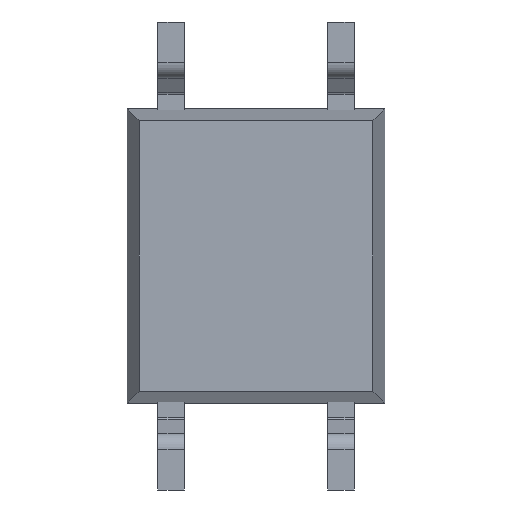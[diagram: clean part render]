
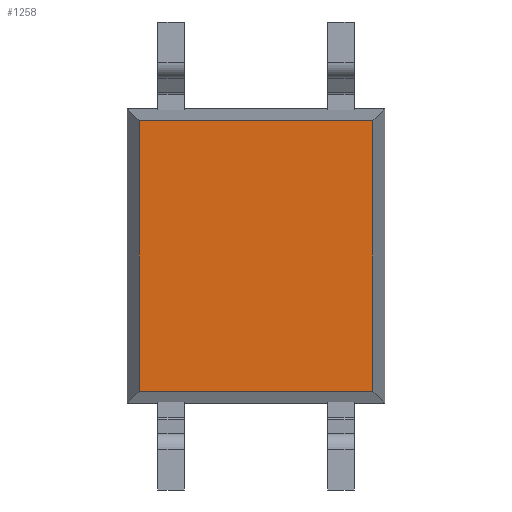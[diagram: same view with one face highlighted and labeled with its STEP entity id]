
A CAD part, front view. The second image highlights one B-rep face of the part: STEP entity #1258.
In plain terms, the highlighted planar face has unit normal (0, -1, 0).
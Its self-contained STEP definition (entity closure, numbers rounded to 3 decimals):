
#94 = DIRECTION ( 'NONE',  ( 0., 0., 1. ) ) ;
#115 = EDGE_CURVE ( 'NONE', #2478, #1953, #1966, .T. ) ;
#128 = EDGE_CURVE ( 'NONE', #1953, #1628, #244, .T. ) ;
#153 = VECTOR ( 'NONE', #1252, 1000. ) ;
#163 = FACE_OUTER_BOUND ( 'NONE', #1704, .T. ) ;
#244 = LINE ( 'NONE', #1020, #1782 ) ;
#370 = CARTESIAN_POINT ( 'NONE',  ( 0., -1., 2.024 ) ) ;
#549 = ORIENTED_EDGE ( 'NONE', *, *, #911, .F. ) ;
#818 = PLANE ( 'NONE',  #1828 ) ;
#848 = DIRECTION ( 'NONE',  ( 0., 1., 0. ) ) ;
#875 = EDGE_CURVE ( 'NONE', #1628, #2373, #2441, .T. ) ;
#911 = EDGE_CURVE ( 'NONE', #2373, #2478, #1757, .T. ) ;
#1020 = CARTESIAN_POINT ( 'NONE',  ( 0., -1., -2.024 ) ) ;
#1184 = ORIENTED_EDGE ( 'NONE', *, *, #875, .F. ) ;
#1207 = VECTOR ( 'NONE', #94, 1000. ) ;
#1252 = DIRECTION ( 'NONE',  ( 1., 0., 0. ) ) ;
#1258 = ADVANCED_FACE ( 'NONE', ( #163 ), #818, .F. ) ;
#1365 = VECTOR ( 'NONE', #1989, 1000. ) ;
#1462 = CARTESIAN_POINT ( 'NONE',  ( 1.749, -1., -2.024 ) ) ;
#1626 = ORIENTED_EDGE ( 'NONE', *, *, #128, .F. ) ;
#1628 = VERTEX_POINT ( 'NONE', #2093 ) ;
#1651 = CARTESIAN_POINT ( 'NONE',  ( -1.749, -1., 2.024 ) ) ;
#1704 = EDGE_LOOP ( 'NONE', ( #1184, #1626, #2543, #549 ) ) ;
#1757 = LINE ( 'NONE', #370, #153 ) ;
#1782 = VECTOR ( 'NONE', #2414, 1000. ) ;
#1828 = AXIS2_PLACEMENT_3D ( 'NONE', #2040, #848, #2022 ) ;
#1953 = VERTEX_POINT ( 'NONE', #1462 ) ;
#1966 = LINE ( 'NONE', #2385, #1365 ) ;
#1989 = DIRECTION ( 'NONE',  ( 0., 0., -1. ) ) ;
#2022 = DIRECTION ( 'NONE',  ( 0., 0., -1. ) ) ;
#2040 = CARTESIAN_POINT ( 'NONE',  ( 0., -1., 0. ) ) ;
#2093 = CARTESIAN_POINT ( 'NONE',  ( -1.749, -1., -2.024 ) ) ;
#2270 = CARTESIAN_POINT ( 'NONE',  ( 1.749, -1., 2.024 ) ) ;
#2373 = VERTEX_POINT ( 'NONE', #1651 ) ;
#2385 = CARTESIAN_POINT ( 'NONE',  ( 1.749, -1., 0. ) ) ;
#2414 = DIRECTION ( 'NONE',  ( -1., 0., 0. ) ) ;
#2441 = LINE ( 'NONE', #2518, #1207 ) ;
#2478 = VERTEX_POINT ( 'NONE', #2270 ) ;
#2518 = CARTESIAN_POINT ( 'NONE',  ( -1.749, -1., 0. ) ) ;
#2543 = ORIENTED_EDGE ( 'NONE', *, *, #115, .F. ) ;
